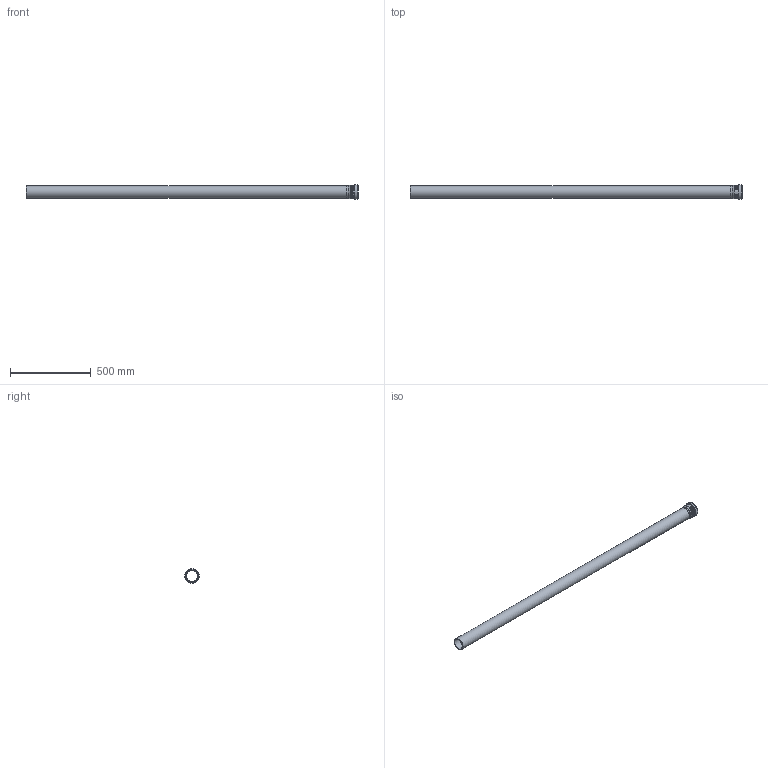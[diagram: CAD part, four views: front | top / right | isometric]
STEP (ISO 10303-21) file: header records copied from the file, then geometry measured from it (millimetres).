
FILE_DESCRIPTION(/* description */ (''),/* implementation_level */ '2;1');
FILE_NAME(/* name */ 'H:\Geberit-Teile\Export\PP_Rohr\stp\393306.stp',/* time_stamp */ '2017-02-13T16:06:38+01:00',/* author */ ('seihe2'),/* organization */ (''),/* preprocessor_version */ 'ST-DEVELOPER v15.2',/* originating_system */ 'Autodesk Inventor 2014',/* authorisation */ '');
FILE_SCHEMA (('AUTOMOTIVE_DESIGN { 1 0 10303 214 3 1 1 }'));
Length unit declared in the file: millimetre
Products named in the file (1): 393306
Bounding box: 2055.7 x 91 x 91 mm (x, y, z)
Volume: 1769578.9 mm3; surface area: 939675.3 mm2
Topology: 2 solids, 2 shells, 38 faces, 82 edges, 57 vertices
Faces by surface type: torus 16, cylinder 10, plane 8, cone 2, bspline 2
Full cylindrical faces by diameter (mm): 67.6 x2, 75.2 x2, 76 x1, 77.6 x1, 82.8 x1, 84.4 x1, 84.8 x1, 91 x1
Entity records: 2151 total; most frequent: CARTESIAN_POINT 1359, DIRECTION 132, ORIENTED_EDGE 130, EDGE_LOOP 68, AXIS2_PLACEMENT_3D 66, EDGE_CURVE 65, VERTEX_POINT 57, STYLED_ITEM 40
